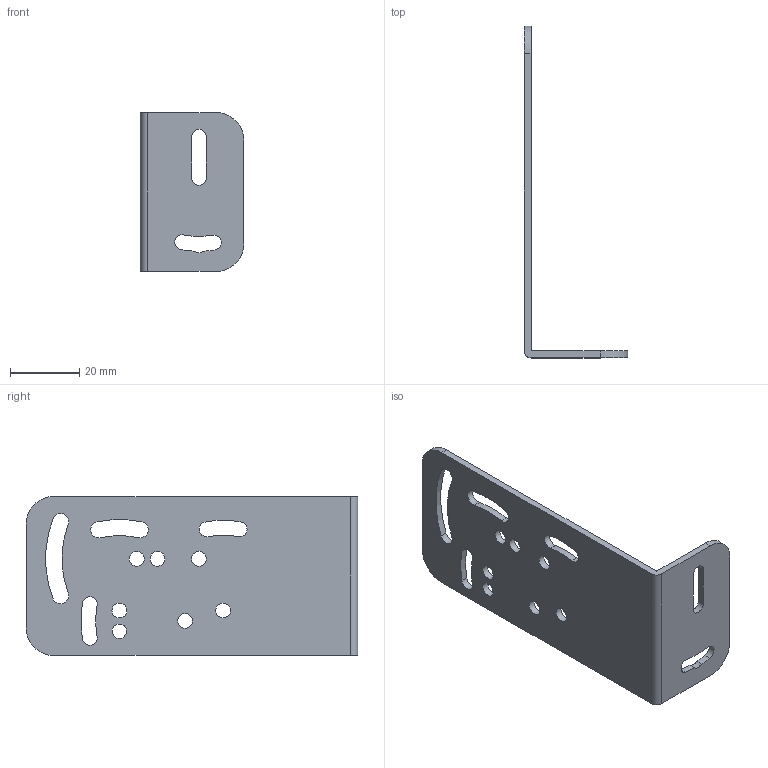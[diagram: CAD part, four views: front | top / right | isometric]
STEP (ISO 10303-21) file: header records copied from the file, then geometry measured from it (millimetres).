
FILE_DESCRIPTION(/* description */ (''),/* implementation_level */ '2;1');
FILE_NAME(/* name */ '3DCAD_BT300M_5.stp',/* time_stamp */ '2017-02-20T16:09:24+01:00',/* author */ ('CC2'),/* organization */ ('Leuze electronic'),/* preprocessor_version */ 'ST-DEVELOPER v15',/* originating_system */ 'SIEMENS PLM Software NX 8.5',/* authorisation */ '');
FILE_SCHEMA (('AUTOMOTIVE_DESIGN { 1 0 10303 214 3 1 1 1 }'));
Length unit declared in the file: millimetre
Products named in the file (2): BT 300 - 001_P_C; 19-102177_01
Assembly tree (1 placements, depth 2):
  19-102177_01
    BT 300 - 001_P_C
Bounding box: 30 x 96 x 46 mm (x, y, z)
Volume: 10199.8 mm3; surface area: 11504.5 mm2
Topology: 1 solids, 1 shells, 47 faces, 142 edges, 97 vertices
Faces by surface type: cylinder 37, plane 10
Full cylindrical faces by diameter (mm): 4.2 x1, 4.3 x6
Entity records: 1728 total; most frequent: DIRECTION 299, CARTESIAN_POINT 270, ORIENTED_EDGE 256, EDGE_CURVE 128, AXIS2_PLACEMENT_3D 123, VERTEX_POINT 90, EDGE_LOOP 80, CIRCLE 74
